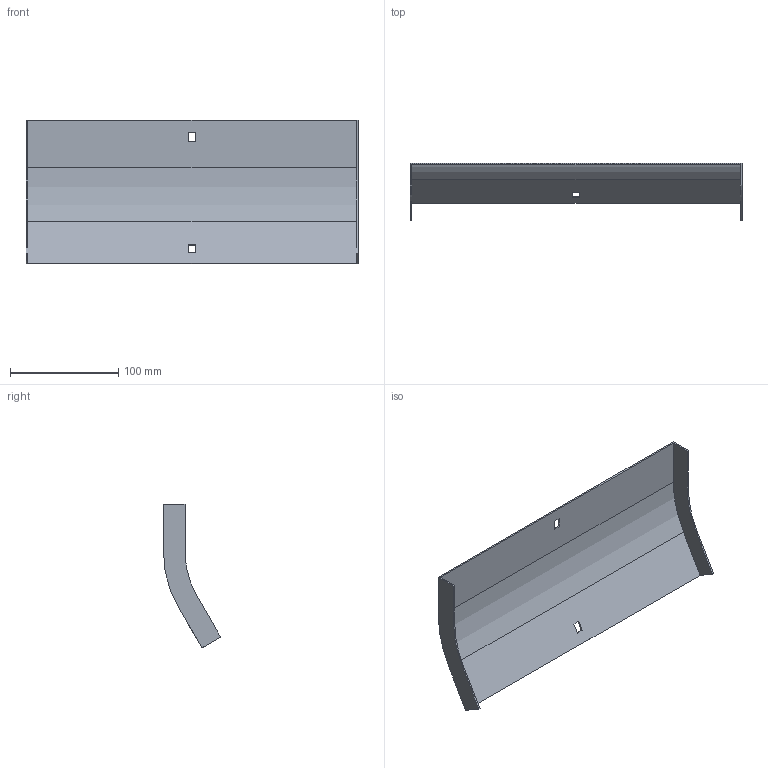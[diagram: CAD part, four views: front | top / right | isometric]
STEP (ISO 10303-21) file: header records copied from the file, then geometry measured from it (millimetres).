
FILE_DESCRIPTION (( 'STEP AP214' ), '1' );
FILE_NAME ('35G1B300.step', '2025-02-21T12:41:28', ( '' ), ( '' ), 'SwSTEP 2.0', 'SolidWorks 2023', '' );
FILE_SCHEMA (( 'AUTOMOTIVE_DESIGN' ));
Length unit declared in the file: millimetre
Products named in the file (1): 35G1B300
Bounding box: 307 x 52.92 x 132.86 mm (x, y, z)
Volume: 72162.2 mm3; surface area: 97734.5 mm2
Topology: 1 solids, 1 shells, 26 faces, 72 edges, 48 vertices
Faces by surface type: plane 22, cylinder 4
Entity records: 855 total; most frequent: CARTESIAN_POINT 147, ORIENTED_EDGE 144, DIRECTION 134, EDGE_CURVE 72, VECTOR 64, LINE 64, VERTEX_POINT 48, AXIS2_PLACEMENT_3D 35
